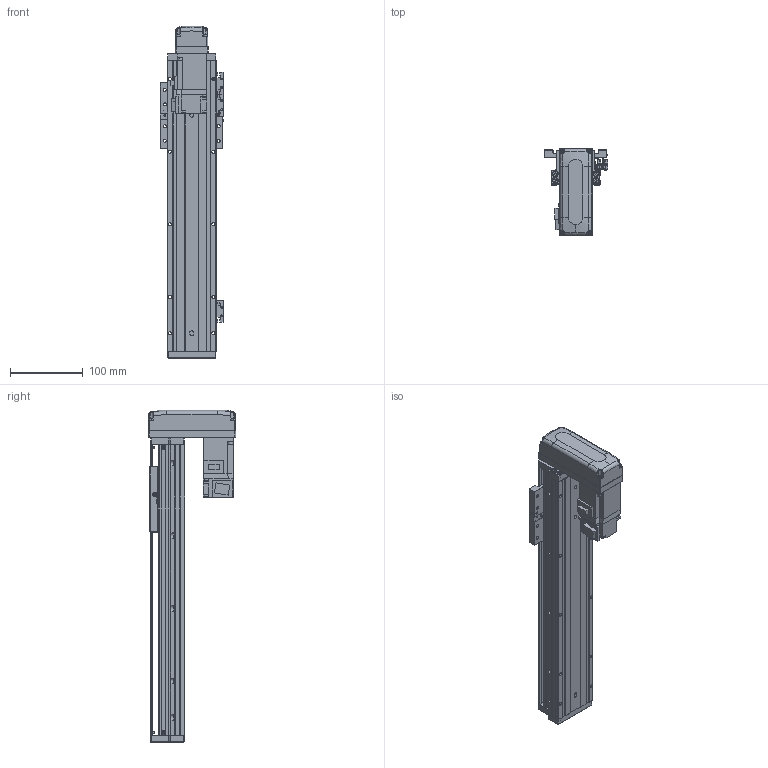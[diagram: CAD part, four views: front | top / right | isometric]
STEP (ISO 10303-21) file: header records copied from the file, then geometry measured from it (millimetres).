
FILE_DESCRIPTION (( 'STEP AP203' ), '1' );
FILE_NAME ('KTHAL60-250-BM-M10-C4L.step', '2022-03-19T08:40:38', ( '微软用户' ), ( '微软中国' ), 'SwSTEP 2.0', 'SolidWorks 2020', '' );
FILE_SCHEMA (( 'CONFIG_CONTROL_DESIGN' ));
Length unit declared in the file: millimetre
Products named in the file (18): KTHAL60-250-BM-M10-C4L; GB¨uT 70.2-M3¡Á5_M3¡Á6; GBT 70.1-M3℅6; GBT 70.3-M3℅6; CTHA60-016; EE_SX911P_R; HG-KR13（三菱）; KTHA60-001_400; CTHA60-017; CTHA60-015-2_CTHA60-015-2; KTHLA60-002; CTHA60-021; CTHA60-033; KTHA60-004; GBT 70.1-M4×16; GBT 70.1-M3×15; KTHA60-005; GBT77-2000M3-3
Assembly tree (51 placements, depth 2):
  KTHAL60-250-BM-M10-C4L
    KTHA60-001_400
    KTHLA60-002
    KTHA60-004
    KTHA60-005
    GB¨uT 70.2-M3¡Á5_M3¡Á6  x5
    GBT 70.3-M3℅6  x4
    EE_SX911P_R  x3
    CTHA60-017  x3
    CTHA60-021  x2
    GBT 70.1-M4×16  x10
    GBT77-2000M3-3  x6
    GBT 70.1-M3℅6  x6
    CTHA60-016
    HG-KR13（三菱）
    CTHA60-015-2_CTHA60-015-2
    CTHA60-033
    GBT 70.1-M3×15  x4
Bounding box: 87.82 x 120 x 457 mm (x, y, z)
Volume: 1124770 mm3; surface area: 277146.9 mm2
Topology: 54 solids, 54 shells, 2255 faces, 5331 edges, 3269 vertices
Faces by surface type: plane 1288, cylinder 547, cone 282, torus 98, bspline 26, sphere 14
Entity records: 38701 total; most frequent: CARTESIAN_POINT 7336, DIRECTION 6023, ORIENTED_EDGE 5806, EDGE_CURVE 2903, AXIS2_PLACEMENT_3D 2023, LINE 1977, VECTOR 1977, VERTEX_POINT 1818
